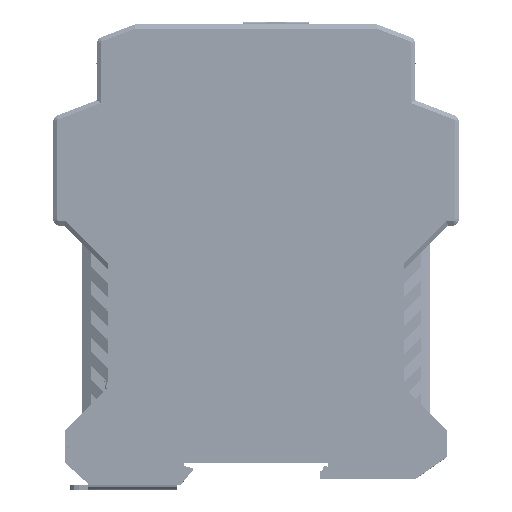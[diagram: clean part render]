
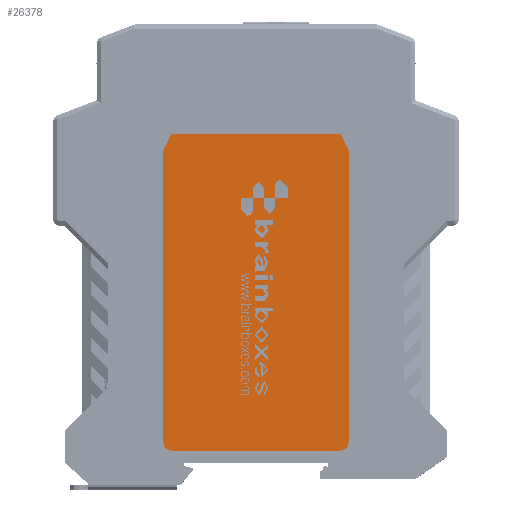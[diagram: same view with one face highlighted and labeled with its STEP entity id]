
A CAD part, top view. The second image highlights one B-rep face of the part: STEP entity #26378.
In plain terms, the highlighted planar face has unit normal (0, 0, 1).
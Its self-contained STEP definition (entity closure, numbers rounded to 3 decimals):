
#26378=ADVANCED_FACE('',(#57697),#57698,.T.);
#57697=FACE_OUTER_BOUND('',#100301,.T.);
#57698=PLANE('',#100302);
#100301=EDGE_LOOP('',(#177840,#177841,#177842,#177843,#177844,#177845,#177846,#177847));
#100302=AXIS2_PLACEMENT_3D('',#177848,#177849,#177850);
#177840=ORIENTED_EDGE('',*,*,#248843,.T.);
#177841=ORIENTED_EDGE('',*,*,#248845,.T.);
#177842=ORIENTED_EDGE('',*,*,#248846,.T.);
#177843=ORIENTED_EDGE('',*,*,#248836,.F.);
#177844=ORIENTED_EDGE('',*,*,#248847,.T.);
#177845=ORIENTED_EDGE('',*,*,#248832,.T.);
#177846=ORIENTED_EDGE('',*,*,#248848,.T.);
#177847=ORIENTED_EDGE('',*,*,#248840,.T.);
#177848=CARTESIAN_POINT('',(6.465,75.955,22.4));
#177849=DIRECTION('',(0.0,0.0,1.0));
#177850=DIRECTION('',(1.0,-0.0,0.0));
#248832=EDGE_CURVE('',#302178,#302180,#302182,.T.);
#248836=EDGE_CURVE('',#302186,#302184,#302188,.T.);
#248840=EDGE_CURVE('',#302190,#302192,#302194,.T.);
#248843=EDGE_CURVE('',#302192,#302196,#302198,.T.);
#248845=EDGE_CURVE('',#302196,#302200,#302201,.T.);
#248846=EDGE_CURVE('',#302200,#302184,#302202,.T.);
#248847=EDGE_CURVE('',#302186,#302178,#302203,.T.);
#248848=EDGE_CURVE('',#302180,#302190,#302204,.T.);
#302178=VERTEX_POINT('',#381601);
#302180=VERTEX_POINT('',#381604);
#302182=LINE('',#381607,#381608);
#302184=VERTEX_POINT('',#381610);
#302186=VERTEX_POINT('',#381613);
#302188=LINE('',#381616,#381617);
#302190=VERTEX_POINT('',#381619);
#302192=VERTEX_POINT('',#381622);
#302194=LINE('',#381625,#381626);
#302196=VERTEX_POINT('',#381628);
#302198=LINE('',#381631,#381632);
#302200=VERTEX_POINT('',#381634);
#302201=LINE('',#381635,#381636);
#302202=CIRCLE('',#381637,2.0);
#302203=CIRCLE('',#381638,2.0);
#302204=LINE('',#381639,#381640);
#381601=CARTESIAN_POINT('',(22.65,5.,22.4));
#381604=CARTESIAN_POINT('',(22.65,76.3,22.4));
#381607=CARTESIAN_POINT('',(22.65,-8.,22.4));
#381608=VECTOR('',#447486,1.0);
#381610=CARTESIAN_POINT('',(-20.65,3.,22.4));
#381613=CARTESIAN_POINT('',(20.65,3.,22.4));
#381616=CARTESIAN_POINT('',(0.,3.,22.4));
#381617=VECTOR('',#447489,1.0);
#381619=CARTESIAN_POINT('',(20.65,80.3,22.4));
#381622=CARTESIAN_POINT('',(-20.65,80.3,22.4));
#381625=CARTESIAN_POINT('',(0.,80.3,22.4));
#381626=VECTOR('',#447492,1.0);
#381628=CARTESIAN_POINT('',(-22.65,76.3,22.4));
#381631=CARTESIAN_POINT('',(-51.84,17.92,22.4));
#381632=VECTOR('',#447494,1.0);
#381634=CARTESIAN_POINT('',(-22.65,5.,22.4));
#381635=CARTESIAN_POINT('',(-22.65,-8.,22.4));
#381636=VECTOR('',#447495,1.0);
#381637=AXIS2_PLACEMENT_3D('',#447496,#447497,#447498);
#381638=AXIS2_PLACEMENT_3D('',#447499,#447500,#447501);
#381639=CARTESIAN_POINT('',(51.84,17.92,22.4));
#381640=VECTOR('',#447502,1.0);
#447486=DIRECTION('',(0.,1.0,0.0));
#447489=DIRECTION('',(-1.0,0.,0.0));
#447492=DIRECTION('',(-1.0,0.0,0.0));
#447494=DIRECTION('',(-0.447,-0.894,0.0));
#447495=DIRECTION('',(0.,-1.0,0.0));
#447496=CARTESIAN_POINT('',(-20.65,5.,22.4));
#447497=DIRECTION('',(0.0,0.0,1.0));
#447498=DIRECTION('',(1.0,0.0,-0.0));
#447499=CARTESIAN_POINT('',(20.65,5.,22.4));
#447500=DIRECTION('',(0.0,0.0,1.0));
#447501=DIRECTION('',(1.0,0.0,-0.0));
#447502=DIRECTION('',(-0.447,0.894,0.0));
